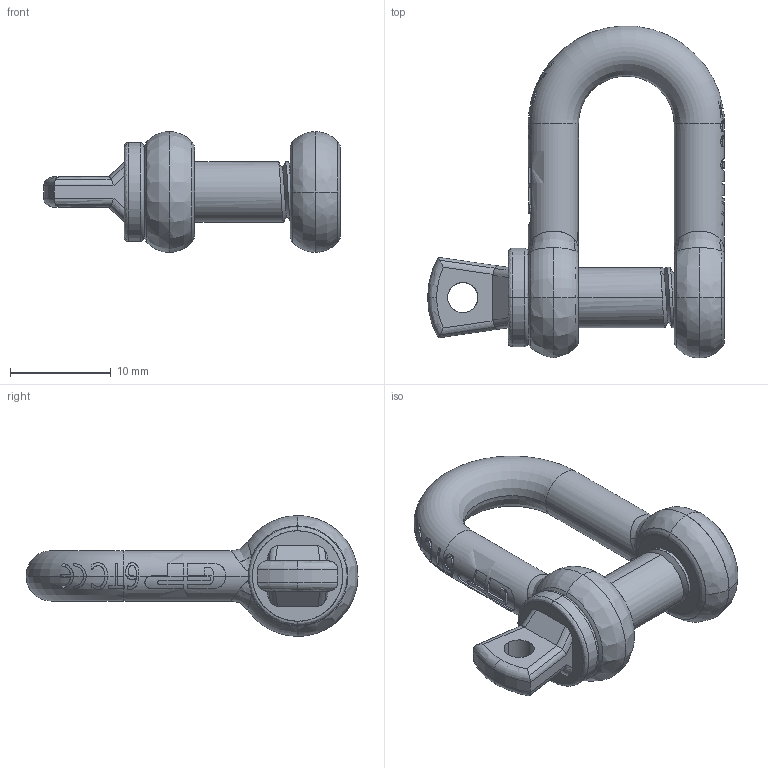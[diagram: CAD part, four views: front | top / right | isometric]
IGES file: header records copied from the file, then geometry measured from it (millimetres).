
Start section: START RECORD GO HERE.
Global section: file name: 0,33.igs; native system: IBM CATIA IGES - CATIA Version 5 Release 17 ; preprocessor: CATIA Version 5 Release 17 ; author: Jack; organization: P4; date: 20090807.081941; units: millimetre
Bounding box: 29.5 x 32.99 x 12 mm (x, y, z)
Surface area: 2311.1 mm2 (no closed solid volume)
Topology: 0 solids, 0 shells, 395 faces, 3035 edges, 3027 vertices
Faces by surface type: bspline 159, revolution 127, plane 109
